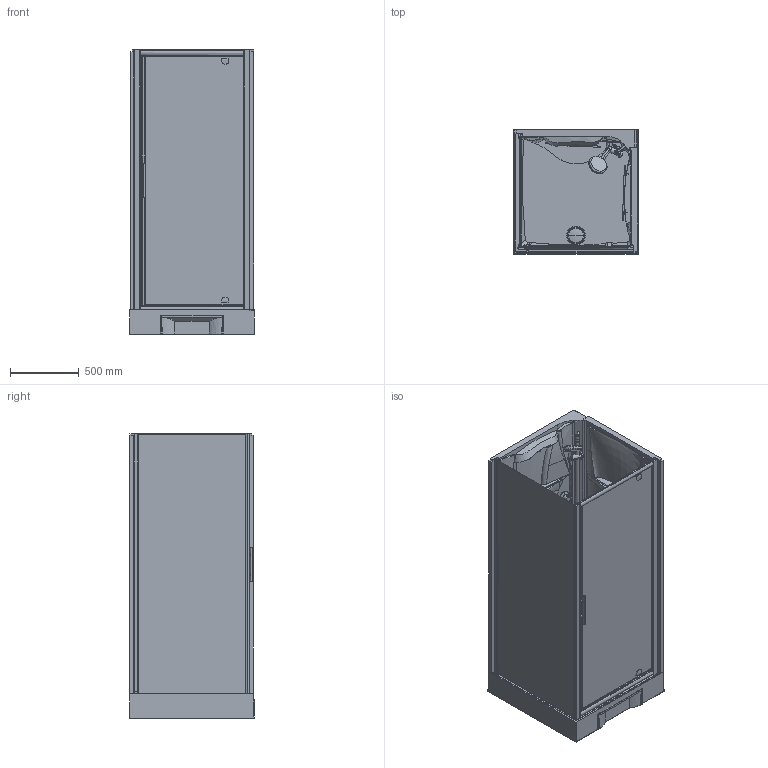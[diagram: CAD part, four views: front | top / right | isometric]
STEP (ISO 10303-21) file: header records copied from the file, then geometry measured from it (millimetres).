
FILE_DESCRIPTION(('STEP AP203'),'2;1');
FILE_NAME('NNH GF 90 M 19.stp','2015-09-04T15:20:45',(''),(''),'2014.1.117','THINKDESIGN','');
FILE_SCHEMA(('CONFIG_CONTROL_DESIGN'));
Length unit declared in the file: millimetre
Products named in the file (1): top
Bounding box: 904 x 907.51 x 2063.06 mm (x, y, z)
Volume: 206751560.7 mm3; surface area: 18223477.6 mm2
Topology: 38 solids, 38 shells, 730 faces, 1770 edges, 1122 vertices
Faces by surface type: bspline 400, plane 220, cylinder 110
Entity records: 88202 total; most frequent: CARTESIAN_POINT 73785, ORIENTED_EDGE 3488, DIRECTION 1954, EDGE_CURVE 1744, VERTEX_POINT 1114, EDGE_LOOP 754, FACE_OUTER_BOUND 728, ADVANCED_FACE 728
